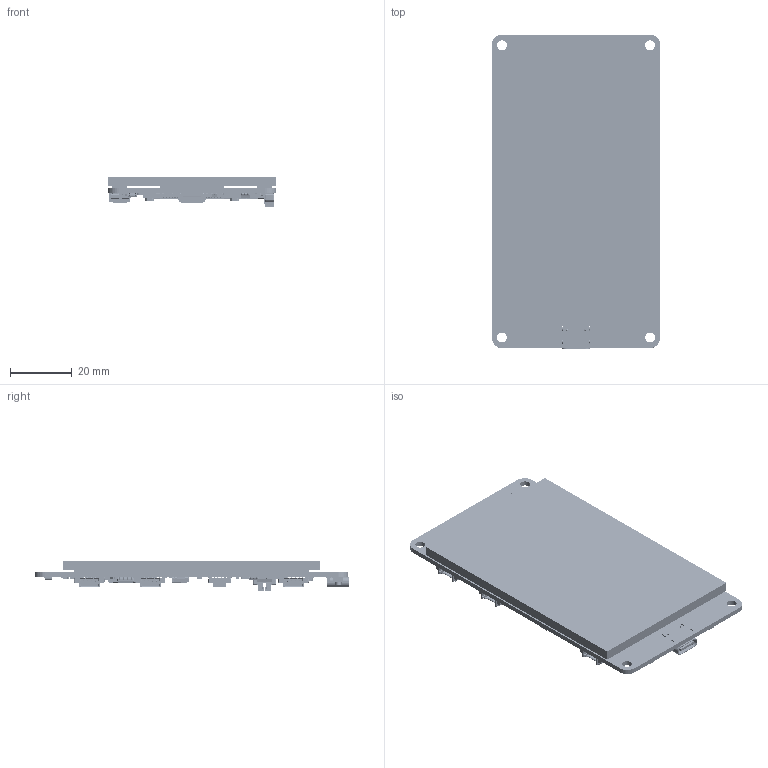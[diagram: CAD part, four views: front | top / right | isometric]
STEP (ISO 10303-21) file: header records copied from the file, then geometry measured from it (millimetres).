
FILE_DESCRIPTION(('Open CASCADE Model'),'2;1');
FILE_NAME('Open CASCADE Shape Model','2025-07-22T18:28:11',('Author'),( 'Open CASCADE'),'Open CASCADE STEP processor 6.8','Open CASCADE 6.8' ,'Unknown');
FILE_SCHEMA(('AUTOMOTIVE_DESIGN { 1 0 10303 214 1 1 1 1 }'));
Length unit declared in the file: millimetre
Products named in the file (181): PCB; Board; Open CASCADE STEP translator 6.8 2.1.1; C33; 6016729792; R46; 7241886960; R45; R4; R3; R2; R1; R18; 6100423184; R17; W1; SOP8W; LOGO?0.25; SOP8W_呿极; 綠僅1.8_腔竘褐; R43; 7241878560; R37; R36; R35; R34; R28; R27; R24; 7241694272; R23; R22; R21; R12; R8; R5; C40; C_0603; LOGO?; C39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
Assembly tree (302 placements, depth 4):
  PCB
    Board
      Open CASCADE STEP translator 6.8 2.1.1
    C33
      6016729792
    R46
      7241886960
    R45
      7241886960
    R4
      7241886960
    R3
      7241886960
    R2
      7241886960
    R1
      7241886960
    R18
      6100423184
    R17
      6100423184
    W1
      SOP8W
        LOGO?0.25
        SOP8W_呿极
        綠僅1.8_腔竘褐  x8
    R43
      7241878560
    R37
      6100423184
    R36
      6100423184
    R35
      6100423184
    R34
      6100423184
    R28
      6100423184
    R27
      6100423184
    R24
      7241694272
    R23
      7241694272
    R22
      7241878560
    R21
      7241886960
    R12
      7241694272
    R8
      7241878560
    R5
      7241878560
    C40
      C_0603
        LOGO?
        C_0603
    C39
      C_0603
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Bounding box: 54.5 x 101.87 x 10 mm (x, y, z)
Volume: 25921.7 mm3; surface area: 46153.5 mm2
Topology: 1185 solids, 2101 shells, 24015 faces, 61950 edges, 41498 vertices
Faces by surface type: plane 12321, bspline 7165, cylinder 3891, sphere 580, torus 51, cone 7
Full cylindrical faces by diameter (mm): 0.6 x1, 1 x2, 3.2 x4
Entity records: 282921 total; most frequent: CARTESIAN_POINT 94871, ORIENTED_EDGE 32132, DIRECTION 29741, EDGE_CURVE 18618, VERTEX_POINT 13826, LINE 13649, VECTOR 13649, AXIS2_PLACEMENT_3D 8046
